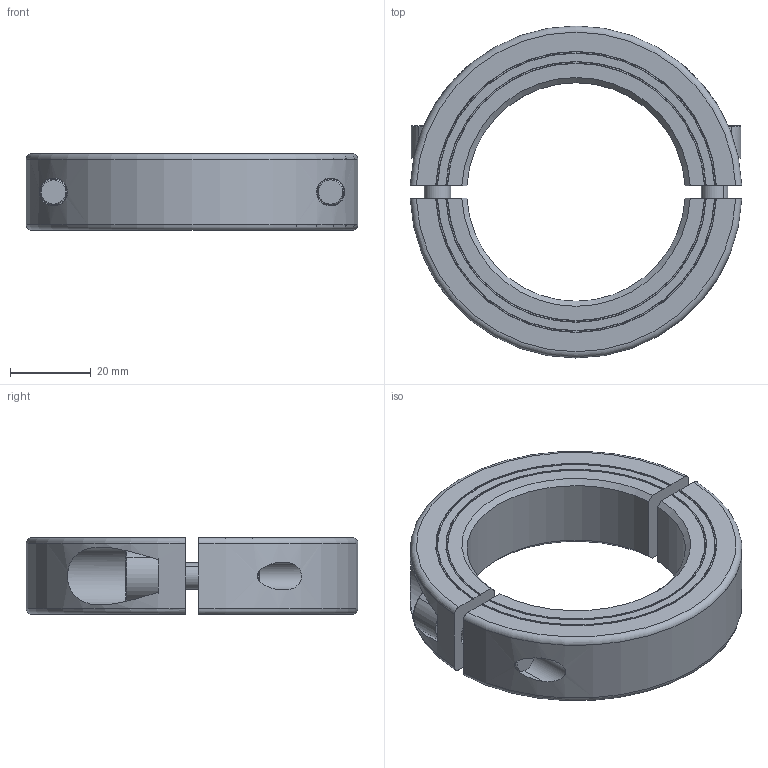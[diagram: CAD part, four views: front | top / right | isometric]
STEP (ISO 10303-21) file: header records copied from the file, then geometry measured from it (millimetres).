
FILE_DESCRIPTION((''),'2;1');
FILE_NAME('MSP-54-X','2016-09-09T',('SYSTEM'),(''),'PRO/ENGINEER BY PARAMETRIC TECHNOLOGY CORPORATION, 2015110','PRO/ENGINEER BY PARAMETRIC TECHNOLOGY CORPORATION, 2015110','');
FILE_SCHEMA(('AUTOMOTIVE_DESIGN { 1 0 10303 214 1 1 1 1 }'));
Length unit declared in the file: inch
Products named in the file (1): MSP-54-X
Bounding box: 81.94 x 82 x 19 mm (x, y, z)
Volume: 51567.1 mm3; surface area: 17919.2 mm2
Topology: 2 solids, 2 shells, 90 faces, 222 edges, 144 vertices
Faces by surface type: plane 36, cylinder 26, cone 20, torus 8
Entity records: 3578 total; most frequent: CARTESIAN_POINT 769, ORIENTED_EDGE 444, DIRECTION 430, EDGE_CURVE 222, AXIS2_PLACEMENT_3D 168, VERTEX_POINT 144, EDGE_LOOP 102, VECTOR 94
